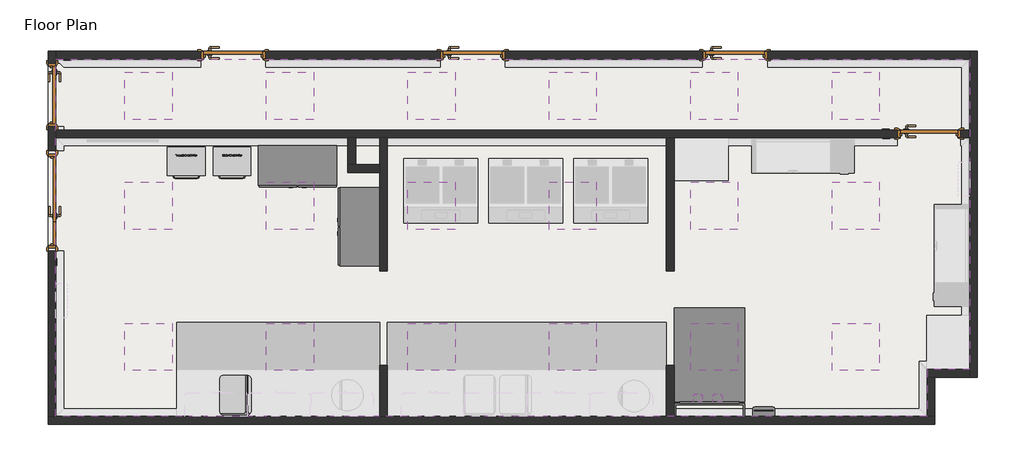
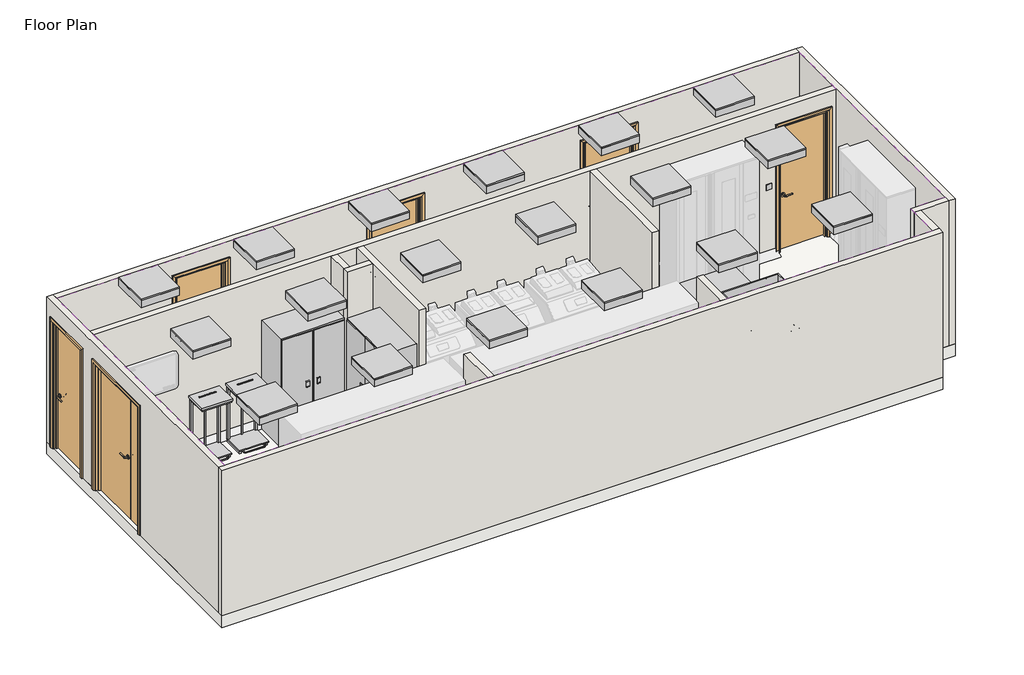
# One storey, part 1 of 2: 18 light fixtures, 13 walls, 8 furniture elements, 7 proxies, 6 doors, 1 covering, 1 flow terminal, 1 slab.
"""IFC4 building model written with IfcOpenShell, lengths in millimetres."""

from ifc_helpers import new_model, si_unit, frame, origin, origin_with_axes, place, context, project, spatial, polyline, outline, extrude, faceted_brep, transform, mapped, element, save
from components import generic_models_42823711, generic_models_1ffc3738, generic_models_cf329d1a, bimhealth_electrical_light_switch_v1_type_1_b5e59f8a, door_810x2110mm_af5921ef, door_830x2110mm_542d9b71, bimhealth_door_and_half_1210x2110mm_sgl_swing_70a7d20a, flow_terminal_30861e1c, furniture_b5986096, furniture_bd22f9ff, furniture_3d3374f5, furniture_166ce8d1, furniture_26d36cfe, furniture_197fe330, furniture_610823a6, lighting_fixtures_troffer_parabolic_square_600x600mm_2_lamps_e1dca80e

model = new_model("IFC4")

# Units and contexts
model_context = context("Model", 3, world=origin())
ifc_project = project(units=[si_unit("LENGTHUNIT", "METRE", prefix="MILLI")], contexts=[model_context])

# Site, building, storey
site = spatial("IfcSite", under=ifc_project)
building = spatial("IfcBuilding", under=site)
storey = spatial("IfcBuildingStorey", under=building, Name="Floor Plan", Elevation=0.0)

# Proxies
placement = place(None, origin())
generic_models_shape = generic_models_42823711(model_context)
element("IfcBuildingElementProxy", 1, Name="BIMHealth-400x600mm_Base_Unit_Lockable-LOD2A-v1 : BIMHealth-400x600mm_Base_Unit_Lockable-LOD2A-v1", ObjectType="BIMHealth-400x600mm_Base_Unit_Lockable-LOD2A-v1 : BIMHealth-400x600mm_Base_Unit_Lockable-LOD2A-v1", at=placement, inside=storey, context=model_context, shape_type="MappedRepresentation", body=[
    mapped(generic_models_shape, transform((-4295.0, 433.0, 0.0), x_axis=(-1.0, 0.0, 0.0), y_axis=(0.0, -1.0, 0.0), z_axis=(0.0, 0.0, 1.0))),
])
generic_models_2_shape = generic_models_1ffc3738(model_context)
element("IfcBuildingElementProxy", 2, Name="BIMHealth-400x600mm_Base_Unit_with_drawer_lockable-LOD2A-v1 : BIMHealth-400x600mm_Base_Unit_with_drawer_lockable-LOD2A-v1", ObjectType="BIMHealth-400x600mm_Base_Unit_with_drawer_lockable-LOD2A-v1 : BIMHealth-400x600mm_Base_Unit_with_drawer_lockable-LOD2A-v1", at=placement, inside=storey, context=model_context, shape_type="MappedRepresentation", body=[
    mapped(generic_models_2_shape, transform((-5495.0, 433.0, 0.0), x_axis=(1.0, 0.0, 0.0), y_axis=(0.0, 1.0, 0.0), z_axis=(0.0, 0.0, 1.0))),
])
generic_models_3_shape = generic_models_cf329d1a(model_context)
element("IfcBuildingElementProxy", 3, Name="BIMHealth-400x600mm_Base_Unit_Lockable-LOD2A-v1 : BIMHealth-400x600mm_Base_Unit_Lockable-LOD2A-v1", ObjectType="BIMHealth-400x600mm_Base_Unit_Lockable-LOD2A-v1 : BIMHealth-400x600mm_Base_Unit_Lockable-LOD2A-v1", at=placement, inside=storey, context=model_context, shape_type="MappedRepresentation", body=[
    mapped(generic_models_3_shape, transform((-5095.0, 433.0, 0.0), x_axis=(1.0, 0.0, 0.0), y_axis=(0.0, 1.0, 0.0), z_axis=(0.0, 0.0, 1.0))),
])
bimhealth_electrical_light_switch_v1_type_1_shape = bimhealth_electrical_light_switch_v1_type_1_b5e59f8a(model_context)
element("IfcBuildingElementProxy", 4, Name="BIMHealth-Electrical-Light_Switch-v1 : Type 1", ObjectType="BIMHealth-Electrical-Light_Switch-v1 : Type 1", at=placement, inside=storey, context=model_context, shape_type="MappedRepresentation", body=[
    mapped(bimhealth_electrical_light_switch_v1_type_1_shape, transform((-6809.0, 5017.0, -60.0), x_axis=(-1.0, 0.0, 0.0), y_axis=(0.0, -1.0, 0.0), z_axis=(0.0, 0.0, 1.0))),
])
element("IfcBuildingElementProxy", 5, Name="BIMHealth-Electrical-Light_Switch-v1 : Type 1", ObjectType="BIMHealth-Electrical-Light_Switch-v1 : Type 1", at=placement, inside=storey, context=model_context, shape_type="MappedRepresentation", body=[
    mapped(bimhealth_electrical_light_switch_v1_type_1_shape, transform((-7174.0, 2556.5, 0.0), x_axis=(0.0, -1.0, 0.0), y_axis=(1.0, 0.0, 0.0), z_axis=(0.0, 0.0, 1.0))),
])
element("IfcBuildingElementProxy", 6, Name="BIMHealth-Electrical-Light_Switch-v1 : Type 1", ObjectType="BIMHealth-Electrical-Light_Switch-v1 : Type 1", at=placement, inside=storey, context=model_context, shape_type="MappedRepresentation", body=[
    mapped(bimhealth_electrical_light_switch_v1_type_1_shape, transform((3270.0, 4017.0, 0.0), x_axis=(1.0, 0.0, 0.0), y_axis=(0.0, 1.0, 0.0), z_axis=(0.0, 0.0, 1.0))),
])
element("IfcBuildingElementProxy", 7, Name="BIMHealth-Electrical-Light_Switch-v1 : Type 1", ObjectType="BIMHealth-Electrical-Light_Switch-v1 : Type 1", at=placement, inside=storey, context=model_context, shape_type="MappedRepresentation", body=[
    mapped(bimhealth_electrical_light_switch_v1_type_1_shape, transform((3614.5, 4017.0, 0.0), x_axis=(-1.0, 0.0, 0.0), y_axis=(0.0, -1.0, 0.0), z_axis=(0.0, 0.0, 1.0))),
])

# Covering
element("IfcCovering", 8, ObjectType="BIMHealth - Generic Ceiling", at=placement, inside=storey, context=model_context, shape_type="SweptSolid", body=[
    extrude(outline(polyline([(4505.0, 4967.0), (4505.0, 1015.0), (3963.0, 1015.0), (3963.0, 415.0), (-7124.0, 415.0), (-7124.0, 4967.0), (4505.0, 4967.0)]), holes=[polyline([(-5645.6316614, 1600.8567242), (-6245.6316614, 1600.8567242), (-6245.6316614, 1000.8567242), (-5645.6316614, 1000.8567242), (-5645.6316614, 1600.8567242)]), polyline([(-3845.0, 1600.8567242), (-4445.0, 1600.8567242), (-4445.0, 1000.8567242), (-3845.0, 1000.8567242), (-3845.0, 1600.8567242)]), polyline([(-2045.0, 1600.8567242), (-2645.0, 1600.8567242), (-2645.0, 1000.8567242), (-2045.0, 1000.8567242), (-2045.0, 1600.8567242)]), polyline([(-245.0, 1600.8567242), (-845.0, 1600.8567242), (-845.0, 1000.8567242), (-245.0, 1000.8567242), (-245.0, 1600.8567242)]), polyline([(1555.0, 1600.8567242), (955.0, 1600.8567242), (955.0, 1000.8567242), (1555.0, 1000.8567242), (1555.0, 1600.8567242)]), polyline([(3355.0, 1600.8567242), (2755.0, 1600.8567242), (2755.0, 1000.8567242), (3355.0, 1000.8567242), (3355.0, 1600.8567242)]), polyline([(-5645.6316614, 3400.0), (-6245.6316614, 3400.0), (-6245.6316614, 2800.0), (-5645.6316614, 2800.0), (-5645.6316614, 3400.0)]), polyline([(-3845.0, 3400.0), (-4445.0, 3400.0), (-4445.0, 2800.0), (-3845.0, 2800.0), (-3845.0, 3400.0)]), polyline([(-2045.0, 3400.0), (-2645.0, 3400.0), (-2645.0, 2800.0), (-2045.0, 2800.0), (-2045.0, 3400.0)]), polyline([(-245.0, 3400.0), (-845.0, 3400.0), (-845.0, 2800.0), (-245.0, 2800.0), (-245.0, 3400.0)]), polyline([(1555.0, 3400.0), (955.0, 3400.0), (955.0, 2800.0), (1555.0, 2800.0), (1555.0, 3400.0)]), polyline([(3355.0, 3400.0), (2755.0, 3400.0), (2755.0, 2800.0), (3355.0, 2800.0), (3355.0, 3400.0)]), polyline([(-5645.6316614, 4800.0), (-6245.6316614, 4800.0), (-6245.6316614, 4200.0), (-5645.6316614, 4200.0), (-5645.6316614, 4800.0)]), polyline([(-3845.0, 4800.0), (-4445.0, 4800.0), (-4445.0, 4200.0), (-3845.0, 4200.0), (-3845.0, 4800.0)]), polyline([(-2045.0, 4800.0), (-2645.0, 4800.0), (-2645.0, 4200.0), (-2045.0, 4200.0), (-2045.0, 4800.0)]), polyline([(-245.0, 4800.0), (-845.0, 4800.0), (-845.0, 4200.0), (-245.0, 4200.0), (-245.0, 4800.0)]), polyline([(1555.0, 4800.0), (955.0, 4800.0), (955.0, 4200.0), (1555.0, 4200.0), (1555.0, 4800.0)]), polyline([(3355.0, 4800.0), (2755.0, 4800.0), (2755.0, 4200.0), (3355.0, 4200.0), (3355.0, 4800.0)])]), frame((0.0, 0.0, 2400.0), z_axis=(0.0, 0.0, 1.0), x_axis=(1.0, 0.0, 0.0)), (0.0, 0.0, 1.0), 52.0),
])

# Doors
door_810x2110mm_shape = door_810x2110mm_af5921ef(model_context)
element("IfcDoor", 9, ObjectType="BIMHealth-Single_Door_841mm_Wide-LOD2A-v1 : 810x2110mm", at=placement, inside=storey, context=model_context, shape_type="MappedRepresentation", body=[
    mapped(door_810x2110mm_shape, transform((3990.0, 4017.0, 0.0), x_axis=(1.0, 0.0, 0.0), y_axis=(0.0, 1.0, 0.0), z_axis=(0.0, 0.0, 1.0))),
])
door_830x2110mm_shape = door_830x2110mm_542d9b71(model_context)
element("IfcDoor", 10, ObjectType="BIMHealth-Single_Door_841mm_Wide-LOD2A-v1 : 830x2110mm", at=placement, inside=storey, context=model_context, shape_type="MappedRepresentation", body=[
    mapped(door_830x2110mm_shape, transform((-4869.0, 5017.0, 0.0), x_axis=(1.0, 0.0, 0.0), y_axis=(0.0, 1.0, 0.0), z_axis=(0.0, 0.0, 1.0))),
])
element("IfcDoor", 11, ObjectType="BIMHealth-Single_Door_841mm_Wide-LOD2A-v1 : 830x2110mm", at=placement, inside=storey, context=model_context, shape_type="MappedRepresentation", body=[
    mapped(door_830x2110mm_shape, transform((1520.0, 5017.0, 0.0), x_axis=(1.0, 0.0, 0.0), y_axis=(0.0, 1.0, 0.0), z_axis=(0.0, 0.0, 1.0))),
])
element("IfcDoor", 12, ObjectType="BIMHealth-Single_Door_841mm_Wide-LOD2A-v1 : 830x2110mm", at=placement, inside=storey, context=model_context, shape_type="MappedRepresentation", body=[
    mapped(door_830x2110mm_shape, transform((-1820.0, 5017.0, 0.0), x_axis=(1.0, 0.0, 0.0), y_axis=(0.0, 1.0, 0.0), z_axis=(0.0, 0.0, 1.0))),
])
bimhealth_door_and_half_1210x2110mm_sgl_swing_shape = bimhealth_door_and_half_1210x2110mm_sgl_swing_70a7d20a(model_context)
element("IfcDoor", 13, ObjectType="BIMHealth-Door_and_half : 1210x2110mm-Sgl_Swing", at=placement, inside=storey, context=model_context, shape_type="MappedRepresentation", body=[
    mapped(bimhealth_door_and_half_1210x2110mm_sgl_swing_shape, transform((-7174.0, 2923.0, 0.0), x_axis=(0.0, 1.0, 0.0), y_axis=(-1.0, 0.0, 0.0), z_axis=(0.0, 0.0, 1.0))),
])
element("IfcDoor", 14, ObjectType="Doors_IntSgl_1 : 810x2110mm", at=placement, inside=storey, context=model_context, shape_type="MappedRepresentation", body=[
    mapped(door_810x2110mm_shape, transform((-7174.0, 4512.0, 0.0), x_axis=(0.0, -1.0, 0.0), y_axis=(1.0, 0.0, 0.0), z_axis=(0.0, 0.0, 1.0))),
])

# Flow terminal
flow_terminal_shape = flow_terminal_30861e1c(model_context)
element("IfcFlowTerminal", 15, ObjectType="BIMHealth-Wash_basin-LOD2A-v1 : BIMHealth-Wash_basin-LOD2A-v1", at=placement, inside=storey, context=model_context, shape_type="MappedRepresentation", body=[
    mapped(flow_terminal_shape, transform((1445.0, 601.0, 600.0), x_axis=(-1.0, 0.0, 0.0), y_axis=(0.0, -1.0, 0.0), z_axis=(0.0, 0.0, 1.0))),
])

# Furniture
furniture_shape = furniture_b5986096(model_context)
element("IfcFurniture", 16, ObjectType="BIMHealth-Foam_Dispenser-LOD2A-v1 : BIMHealth-Foam_Dispenser-LOD2A-v1", at=placement, inside=storey, context=model_context, shape_type="MappedRepresentation", body=[
    mapped(furniture_shape, transform((1105.0, 601.0, 125.0), x_axis=(-1.0, 0.0, 0.0), y_axis=(0.0, -1.0, 0.0), z_axis=(0.0, 0.0, 1.0))),
])
furniture_2_shape = furniture_bd22f9ff(model_context)
element("IfcFurniture", 17, ObjectType="BIMHealth-Cabinet_with_Loackable_Doors-LOD2A-v1 : BIMHealth-Cabinet_with_Loackable_Doors-LOD2A-v1", at=placement, inside=storey, context=model_context, shape_type="MappedRepresentation", body=[
    mapped(furniture_2_shape, transform((-4048.7259741, 3612.0, 0.0), x_axis=(1.0, 0.0, 0.0), y_axis=(0.0, 1.0, 0.0), z_axis=(0.0, 0.0, 1.0))),
])
element("IfcFurniture", 18, ObjectType="BIMHealth-Cabinet_with_Loackable_Doors-LOD2A-v1 : BIMHealth-Cabinet_with_Loackable_Doors-LOD2A-v1", at=placement, inside=storey, context=model_context, shape_type="MappedRepresentation", body=[
    mapped(furniture_2_shape, transform((-3260.0, 2834.1370771, 0.0), x_axis=(0.0, -1.0, 0.0), y_axis=(1.0, 0.0, 0.0), z_axis=(0.0, 0.0, 1.0))),
])
furniture_3_shape = furniture_3d3374f5(model_context)
element("IfcFurniture", 19, ObjectType="BIMHealth-Washstation-LOD2A-v1 : BIMHealth-Washstation-LOD2A-v1", at=placement, inside=storey, context=model_context, shape_type="MappedRepresentation", body=[
    mapped(furniture_3_shape, transform((745.0, 415.0, 0.0), x_axis=(-1.0, 0.0, 0.0), y_axis=(0.0, -1.0, 0.0), z_axis=(0.0, 0.0, 1.0))),
])
furniture_4_shape = furniture_166ce8d1(model_context)
element("IfcFurniture", 20, ObjectType="BIMHealth-Paper_Towel_Dispenser-LOD2A-v1 : BIMHealth-Paper_Towel_Dispenser-LOD2A-v1", at=placement, inside=storey, context=model_context, shape_type="MappedRepresentation", body=[
    mapped(furniture_4_shape, transform((2023.0, 415.0, 0.0), x_axis=(-1.0, 0.0, 0.0), y_axis=(0.0, -1.0, 0.0), z_axis=(0.0, 0.0, 1.0))),
])
furniture_5_shape = furniture_26d36cfe(model_context)
element("IfcFurniture", 21, ObjectType="BIMHealth-Soap_Dispenser-LOD2A-v1 : BIMHealth-Soap_Dispenser-LOD2A-v1", at=placement, inside=storey, context=model_context, shape_type="MappedRepresentation", body=[
    mapped(furniture_5_shape, transform((1355.0, 601.0, 125.0), x_axis=(-1.0, 0.0, 0.0), y_axis=(0.0, -1.0, 0.0), z_axis=(0.0, 0.0, 1.0))),
])
furniture_6_shape = furniture_197fe330(model_context)
element("IfcFurniture", 22, ObjectType="BIMHealth-Sack_Holder_Domestic-LOD2A-v1 : BIMHealth-Sack_Holder_Domestic-LOD2A-v1", at=placement, inside=storey, context=model_context, shape_type="MappedRepresentation", body=[
    mapped(furniture_6_shape, transform((-5685.0, 3827.0, 0.0), x_axis=(1.0, 0.0, 0.0), y_axis=(0.0, 1.0, 0.0), z_axis=(0.0, 0.0, 1.0))),
])
furniture_7_shape = furniture_610823a6(model_context)
element("IfcFurniture", 23, ObjectType="BIMHealth-Sack_Holder_Clinical-LOD2A-v1 : BIMHealth-Sack_Holder_Clinical-LOD2A-v1", at=placement, inside=storey, context=model_context, shape_type="MappedRepresentation", body=[
    mapped(furniture_7_shape, transform((-5105.0, 3827.0, 0.0), x_axis=(1.0, 0.0, 0.0), y_axis=(0.0, 1.0, 0.0), z_axis=(0.0, 0.0, 1.0))),
])

# Light fixtures
lighting_fixtures_troffer_parabolic_square_600x600mm_2_lamps_shape = lighting_fixtures_troffer_parabolic_square_600x600mm_2_lamps_e1dca80e(model_context)
element("IfcLightFixture", 24, ObjectType="Lighting_Fixtures_Troffer_Parabolic_Square : 600x600mm-2_Lamps", at=placement, inside=storey, context=model_context, shape_type="MappedRepresentation", body=[
    mapped(lighting_fixtures_troffer_parabolic_square_600x600mm_2_lamps_shape, transform((-5922.1281598, 1355.5226563, -38.4), x_axis=(1.0, 0.0, 0.0), y_axis=(0.0, 1.0, 0.0), z_axis=(0.0, 0.0, 1.0))),
])
element("IfcLightFixture", 25, ObjectType="Lighting_Fixtures_Troffer_Parabolic_Square : 600x600mm-2_Lamps", at=placement, inside=storey, context=model_context, shape_type="MappedRepresentation", body=[
    mapped(lighting_fixtures_troffer_parabolic_square_600x600mm_2_lamps_shape, transform((-4121.4964984, 1355.5226563, -38.4), x_axis=(1.0, 0.0, 0.0), y_axis=(0.0, 1.0, 0.0), z_axis=(0.0, 0.0, 1.0))),
])
element("IfcLightFixture", 26, ObjectType="Lighting_Fixtures_Troffer_Parabolic_Square : 600x600mm-2_Lamps", at=placement, inside=storey, context=model_context, shape_type="MappedRepresentation", body=[
    mapped(lighting_fixtures_troffer_parabolic_square_600x600mm_2_lamps_shape, transform((-2321.4964984, 1355.5226563, -38.4), x_axis=(1.0, 0.0, 0.0), y_axis=(0.0, 1.0, 0.0), z_axis=(0.0, 0.0, 1.0))),
])
element("IfcLightFixture", 27, ObjectType="Lighting_Fixtures_Troffer_Parabolic_Square : 600x600mm-2_Lamps", at=placement, inside=storey, context=model_context, shape_type="MappedRepresentation", body=[
    mapped(lighting_fixtures_troffer_parabolic_square_600x600mm_2_lamps_shape, transform((-521.4964984, 1355.5226563, -38.4), x_axis=(1.0, 0.0, 0.0), y_axis=(0.0, 1.0, 0.0), z_axis=(0.0, 0.0, 1.0))),
])
element("IfcLightFixture", 28, ObjectType="Lighting_Fixtures_Troffer_Parabolic_Square : 600x600mm-2_Lamps", at=placement, inside=storey, context=model_context, shape_type="MappedRepresentation", body=[
    mapped(lighting_fixtures_troffer_parabolic_square_600x600mm_2_lamps_shape, transform((1278.5035016, 1355.5226563, -38.4), x_axis=(1.0, 0.0, 0.0), y_axis=(0.0, 1.0, 0.0), z_axis=(0.0, 0.0, 1.0))),
])
element("IfcLightFixture", 29, ObjectType="Lighting_Fixtures_Troffer_Parabolic_Square : 600x600mm-2_Lamps", at=placement, inside=storey, context=model_context, shape_type="MappedRepresentation", body=[
    mapped(lighting_fixtures_troffer_parabolic_square_600x600mm_2_lamps_shape, transform((3078.5035016, 1355.5226563, -38.4), x_axis=(1.0, 0.0, 0.0), y_axis=(0.0, 1.0, 0.0), z_axis=(0.0, 0.0, 1.0))),
])
element("IfcLightFixture", 30, ObjectType="Lighting_Fixtures_Troffer_Parabolic_Square : 600x600mm-2_Lamps", at=placement, inside=storey, context=model_context, shape_type="MappedRepresentation", body=[
    mapped(lighting_fixtures_troffer_parabolic_square_600x600mm_2_lamps_shape, transform((-5922.1281598, 3154.6659321, -38.4), x_axis=(1.0, 0.0, 0.0), y_axis=(0.0, 1.0, 0.0), z_axis=(0.0, 0.0, 1.0))),
])
element("IfcLightFixture", 31, ObjectType="Lighting_Fixtures_Troffer_Parabolic_Square : 600x600mm-2_Lamps", at=placement, inside=storey, context=model_context, shape_type="MappedRepresentation", body=[
    mapped(lighting_fixtures_troffer_parabolic_square_600x600mm_2_lamps_shape, transform((-4121.4964984, 3154.6659321, -38.4), x_axis=(1.0, 0.0, 0.0), y_axis=(0.0, 1.0, 0.0), z_axis=(0.0, 0.0, 1.0))),
])
element("IfcLightFixture", 32, ObjectType="Lighting_Fixtures_Troffer_Parabolic_Square : 600x600mm-2_Lamps", at=placement, inside=storey, context=model_context, shape_type="MappedRepresentation", body=[
    mapped(lighting_fixtures_troffer_parabolic_square_600x600mm_2_lamps_shape, transform((-2321.4964984, 3154.6659321, -38.4), x_axis=(1.0, 0.0, 0.0), y_axis=(0.0, 1.0, 0.0), z_axis=(0.0, 0.0, 1.0))),
])
element("IfcLightFixture", 33, ObjectType="Lighting_Fixtures_Troffer_Parabolic_Square : 600x600mm-2_Lamps", at=placement, inside=storey, context=model_context, shape_type="MappedRepresentation", body=[
    mapped(lighting_fixtures_troffer_parabolic_square_600x600mm_2_lamps_shape, transform((-521.4964984, 3154.6659321, -38.4), x_axis=(1.0, 0.0, 0.0), y_axis=(0.0, 1.0, 0.0), z_axis=(0.0, 0.0, 1.0))),
])
element("IfcLightFixture", 34, ObjectType="Lighting_Fixtures_Troffer_Parabolic_Square : 600x600mm-2_Lamps", at=placement, inside=storey, context=model_context, shape_type="MappedRepresentation", body=[
    mapped(lighting_fixtures_troffer_parabolic_square_600x600mm_2_lamps_shape, transform((1278.5035016, 3154.6659321, -38.4), x_axis=(1.0, 0.0, 0.0), y_axis=(0.0, 1.0, 0.0), z_axis=(0.0, 0.0, 1.0))),
])
element("IfcLightFixture", 35, ObjectType="Lighting_Fixtures_Troffer_Parabolic_Square : 600x600mm-2_Lamps", at=placement, inside=storey, context=model_context, shape_type="MappedRepresentation", body=[
    mapped(lighting_fixtures_troffer_parabolic_square_600x600mm_2_lamps_shape, transform((3078.5035016, 3154.6659321, -38.4), x_axis=(1.0, 0.0, 0.0), y_axis=(0.0, 1.0, 0.0), z_axis=(0.0, 0.0, 1.0))),
])
element("IfcLightFixture", 36, ObjectType="Lighting_Fixtures_Troffer_Parabolic_Square : 600x600mm-2_Lamps", at=placement, inside=storey, context=model_context, shape_type="MappedRepresentation", body=[
    mapped(lighting_fixtures_troffer_parabolic_square_600x600mm_2_lamps_shape, transform((-5922.1281598, 4554.6659321, -38.4), x_axis=(1.0, 0.0, 0.0), y_axis=(0.0, 1.0, 0.0), z_axis=(0.0, 0.0, 1.0))),
])
element("IfcLightFixture", 37, ObjectType="Lighting_Fixtures_Troffer_Parabolic_Square : 600x600mm-2_Lamps", at=placement, inside=storey, context=model_context, shape_type="MappedRepresentation", body=[
    mapped(lighting_fixtures_troffer_parabolic_square_600x600mm_2_lamps_shape, transform((-4121.4964984, 4554.6659321, -38.4), x_axis=(1.0, 0.0, 0.0), y_axis=(0.0, 1.0, 0.0), z_axis=(0.0, 0.0, 1.0))),
])
element("IfcLightFixture", 38, ObjectType="Lighting_Fixtures_Troffer_Parabolic_Square : 600x600mm-2_Lamps", at=placement, inside=storey, context=model_context, shape_type="MappedRepresentation", body=[
    mapped(lighting_fixtures_troffer_parabolic_square_600x600mm_2_lamps_shape, transform((-2321.4964984, 4554.6659321, -38.4), x_axis=(1.0, 0.0, 0.0), y_axis=(0.0, 1.0, 0.0), z_axis=(0.0, 0.0, 1.0))),
])
element("IfcLightFixture", 39, ObjectType="Lighting_Fixtures_Troffer_Parabolic_Square : 600x600mm-2_Lamps", at=placement, inside=storey, context=model_context, shape_type="MappedRepresentation", body=[
    mapped(lighting_fixtures_troffer_parabolic_square_600x600mm_2_lamps_shape, transform((-521.4964984, 4554.6659321, -38.4), x_axis=(1.0, 0.0, 0.0), y_axis=(0.0, 1.0, 0.0), z_axis=(0.0, 0.0, 1.0))),
])
element("IfcLightFixture", 40, ObjectType="Lighting_Fixtures_Troffer_Parabolic_Square : 600x600mm-2_Lamps", at=placement, inside=storey, context=model_context, shape_type="MappedRepresentation", body=[
    mapped(lighting_fixtures_troffer_parabolic_square_600x600mm_2_lamps_shape, transform((1278.5035016, 4554.6659321, -38.4), x_axis=(1.0, 0.0, 0.0), y_axis=(0.0, 1.0, 0.0), z_axis=(0.0, 0.0, 1.0))),
])
element("IfcLightFixture", 41, ObjectType="Lighting_Fixtures_Troffer_Parabolic_Square : 600x600mm-2_Lamps", at=placement, inside=storey, context=model_context, shape_type="MappedRepresentation", body=[
    mapped(lighting_fixtures_troffer_parabolic_square_600x600mm_2_lamps_shape, transform((3078.5035016, 4554.6659321, -38.4), x_axis=(1.0, 0.0, 0.0), y_axis=(0.0, 1.0, 0.0), z_axis=(0.0, 0.0, 1.0))),
])

# Slab
element("IfcSlab", 42, ObjectType="BIMHealth - Generic Floor", at=placement, inside=storey, context=model_context, shape_type="SweptSolid", body=[
    extrude(outline(polyline([(4605.0, 5067.0), (4605.0, 915.0), (4063.0, 915.0), (4063.0, 315.0), (-7224.0, 315.0), (-7224.0, 5067.0), (4605.0, 5067.0)])), frame((0.0, 0.0, -200.0), z_axis=(0.0, 0.0, 1.0), x_axis=(1.0, 0.0, 0.0)), (0.0, 0.0, 1.0), 200.0),
])

# Walls
element("IfcWall", 43, ObjectType="BIMHealth - Generic Wall", at=placement, inside=storey, context=model_context, shape_type="Brep", body=[
    faceted_brep([(4505.0, 5067.0, 0.0), (4505.0, 4967.0, 0.0), (4505.0, 1015.0, 0.0), (4505.0, 915.0, 0.0), (4505.0, 915.0, 2400.0), (4505.0, 1015.0, 2400.0), (4505.0, 4967.0, 2400.0), (4505.0, 5067.0, 2400.0), (4605.0, 5067.0, 0.0), (4605.0, 5067.0, 2400.0), (4605.0, 915.0, 2400.0), (4605.0, 915.0, 0.0)], [[[0, 1, 2, 3, 4, 5, 6, 7]], [[8, 9, 10, 11]], [[3, 2, 1, 0, 8, 11]], [[7, 6, 5, 4, 10, 9]], [[0, 7, 9, 8]], [[4, 3, 11, 10]]]),
])
element("IfcWall", 44, ObjectType="BIMHealth - Generic Wall", at=placement, inside=storey, context=model_context, shape_type="Brep", body=[
    faceted_brep([(4063.0, 415.0, 0.0), (3963.0, 415.0, 0.0), (745.0, 415.0, 0.0), (645.0, 415.0, 0.0), (-2905.0, 415.0, 0.0), (-3005.0, 415.0, 0.0), (-7124.0, 415.0, 0.0), (-7224.0, 415.0, 0.0), (-7224.0, 415.0, 2400.0), (-7124.0, 415.0, 2400.0), (-3005.0, 415.0, 2400.0), (-2905.0, 415.0, 2400.0), (645.0, 415.0, 2400.0), (745.0, 415.0, 2400.0), (3963.0, 415.0, 2400.0), (4063.0, 415.0, 2400.0), (4063.0, 315.0, 0.0), (4063.0, 315.0, 2400.0), (-7224.0, 315.0, 2400.0), (-7224.0, 315.0, 0.0)], [[[0, 1, 2, 3, 4, 5, 6, 7, 8, 9, 10, 11, 12, 13, 14, 15]], [[16, 17, 18, 19]], [[7, 6, 5, 4, 3, 2, 1, 0, 16, 19]], [[15, 14, 13, 12, 11, 10, 9, 8, 18, 17]], [[8, 7, 19, 18]], [[0, 15, 17, 16]]]),
])
element("IfcWall", 45, ObjectType="BIMHealth - Generic Wall", at=placement, inside=storey, context=model_context, shape_type="Brep", body=[
    faceted_brep([(-7124.0, 5067.0, 2400.0), (-7124.0, 4967.0, 2400.0), (-7124.0, 4067.0, 2400.0), (-7124.0, 3967.0, 2400.0), (-7124.0, 415.0, 2400.0), (-7124.0, 415.0, 100.0), (-7124.0, 415.0, 0.0), (-7124.0, 2522.0, 0.0), (-7124.0, 2522.0, 100.0), (-7124.0, 2522.0, 2110.0), (-7124.0, 3802.0, 2110.0), (-7124.0, 3802.0, 100.0), (-7124.0, 3802.0, 0.0), (-7124.0, 3967.0, 0.0), (-7124.0, 4067.0, 0.0), (-7124.0, 4107.0, 0.0), (-7124.0, 4107.0, 100.0), (-7124.0, 4107.0, 2110.0), (-7124.0, 4917.0, 2110.0), (-7124.0, 4917.0, 100.0), (-7124.0, 4917.0, 0.0), (-7124.0, 4967.0, 0.0), (-7124.0, 5067.0, 0.0), (-7224.0, 415.0, 2400.0), (-7224.0, 5067.0, 2400.0), (-7224.0, 5067.0, 0.0), (-7224.0, 4917.0, 0.0), (-7224.0, 4917.0, 2110.0), (-7224.0, 4107.0, 2110.0), (-7224.0, 4107.0, 0.0), (-7224.0, 3802.0, 0.0), (-7224.0, 3802.0, 2110.0), (-7224.0, 2522.0, 2110.0), (-7224.0, 2522.0, 0.0), (-7224.0, 415.0, 0.0)], [[[0, 1, 2, 3, 4, 5, 6, 7, 8, 9, 10, 11, 12, 13, 14, 15, 16, 17, 18, 19, 20, 21, 22]], [[23, 24, 25, 26, 27, 28, 29, 30, 31, 32, 33, 34]], [[6, 34, 33, 7]], [[25, 22, 21, 20, 26]], [[29, 15, 14, 13, 12, 30]], [[4, 3, 2, 1, 0, 24, 23]], [[6, 5, 4, 23, 34]], [[0, 22, 25, 24]], [[28, 17, 16, 15, 29]], [[17, 28, 27, 18]], [[18, 27, 26, 20, 19]], [[10, 31, 30, 12, 11]], [[31, 10, 9, 32]], [[32, 9, 8, 7, 33]]]),
])
element("IfcWall", 46, ObjectType="BIMHealth - Generic Wall", at=placement, inside=storey, context=model_context, shape_type="Brep", body=[
    faceted_brep([(4505.0, 4967.0, 2400.0), (-7124.0, 4967.0, 2400.0), (-7124.0, 4967.0, 0.0), (-5284.0, 4967.0, 0.0), (-5284.0, 4967.0, 100.0), (-5284.0, 4967.0, 2110.0), (-4454.0, 4967.0, 2110.0), (-4454.0, 4967.0, 100.0), (-4454.0, 4967.0, 0.0), (-2235.0, 4967.0, 0.0), (-2235.0, 4967.0, 100.0), (-2235.0, 4967.0, 2110.0), (-1405.0, 4967.0, 2110.0), (-1405.0, 4967.0, 100.0), (-1405.0, 4967.0, 0.0), (1105.0, 4967.0, 0.0), (1105.0, 4967.0, 100.0), (1105.0, 4967.0, 2110.0), (1935.0, 4967.0, 2110.0), (1935.0, 4967.0, 100.0), (1935.0, 4967.0, 0.0), (4505.0, 4967.0, 0.0), (-7124.0, 5067.0, 2400.0), (4505.0, 5067.0, 2400.0), (4505.0, 5067.0, 0.0), (1935.0, 5067.0, 0.0), (1935.0, 5067.0, 2110.0), (1105.0, 5067.0, 2110.0), (1105.0, 5067.0, 0.0), (-1405.0, 5067.0, 0.0), (-1405.0, 5067.0, 2110.0), (-2235.0, 5067.0, 2110.0), (-2235.0, 5067.0, 0.0), (-4454.0, 5067.0, 0.0), (-4454.0, 5067.0, 2110.0), (-5284.0, 5067.0, 2110.0), (-5284.0, 5067.0, 0.0), (-7124.0, 5067.0, 0.0)], [[[0, 1, 2, 3, 4, 5, 6, 7, 8, 9, 10, 11, 12, 13, 14, 15, 16, 17, 18, 19, 20, 21]], [[22, 23, 24, 25, 26, 27, 28, 29, 30, 31, 32, 33, 34, 35, 36, 37]], [[2, 37, 36, 3]], [[24, 21, 20, 25]], [[8, 33, 32, 9]], [[28, 15, 14, 29]], [[1, 0, 23, 22]], [[2, 1, 22, 37]], [[0, 21, 24, 23]], [[6, 34, 33, 8, 7]], [[34, 6, 5, 35]], [[35, 5, 4, 3, 36]], [[20, 19, 18, 26, 25]], [[18, 17, 27, 26]], [[17, 16, 15, 28, 27]], [[12, 30, 29, 14, 13]], [[30, 12, 11, 31]], [[31, 11, 10, 9, 32]]]),
])
element("IfcWall", 47, ObjectType="BIMHealth - Generic Wall", at=placement, inside=storey, context=model_context, shape_type="Brep", body=[
    faceted_brep([(4495.0, 3967.0, 0.0), (4495.0, 3967.0, 100.0), (4495.0, 3967.0, 2400.0), (745.0, 3967.0, 2400.0), (645.0, 3967.0, 2400.0), (-2905.0, 3967.0, 2400.0), (-3005.0, 3967.0, 2400.0), (-3307.0, 3967.0, 2400.0), (-3407.0, 3967.0, 2400.0), (-7124.0, 3967.0, 2400.0), (-7124.0, 3967.0, 100.0), (-7124.0, 3967.0, 0.0), (-3407.0, 3967.0, 0.0), (-3307.0, 3967.0, 0.0), (-3005.0, 3967.0, 0.0), (-2905.0, 3967.0, 0.0), (645.0, 3967.0, 0.0), (745.0, 3967.0, 0.0), (3585.0, 3967.0, 0.0), (3585.0, 3967.0, 100.0), (3585.0, 3967.0, 2110.0), (4395.0, 3967.0, 2110.0), (4395.0, 3967.0, 100.0), (4395.0, 3967.0, 0.0), (4495.0, 4067.0, 2400.0), (4495.0, 4067.0, 0.0), (4395.0, 4067.0, 0.0), (4395.0, 4067.0, 2110.0), (3585.0, 4067.0, 2110.0), (3585.0, 4067.0, 0.0), (-7124.0, 4067.0, 0.0), (-7124.0, 4067.0, 2400.0)], [[[0, 1, 2, 3, 4, 5, 6, 7, 8, 9, 10, 11, 12, 13, 14, 15, 16, 17, 18, 19, 20, 21, 22, 23]], [[24, 25, 26, 27, 28, 29, 30, 31]], [[25, 0, 23, 26]], [[11, 30, 29, 18, 17, 16, 15, 14, 13, 12]], [[2, 1, 0, 25, 24]], [[9, 8, 7, 6, 5, 4, 3, 2, 24, 31]], [[11, 10, 9, 31, 30]], [[21, 27, 26, 23, 22]], [[27, 21, 20, 28]], [[28, 20, 19, 18, 29]]]),
])
element("IfcWall", 48, ObjectType="BIMHealth - Generic Wall", at=placement, inside=storey, context=model_context, shape_type="Brep", body=[
    faceted_brep([(4505.0, 1015.0, 0.0), (3963.0, 1015.0, 0.0), (3963.0, 1015.0, 100.0), (3963.0, 1015.0, 2400.0), (4505.0, 1015.0, 2400.0), (4505.0, 1015.0, 100.0), (3963.0, 915.0, 0.0), (4063.0, 915.0, 0.0), (4505.0, 915.0, 0.0), (4505.0, 915.0, 2400.0), (4063.0, 915.0, 2400.0), (3963.0, 915.0, 2400.0), (3963.0, 915.0, 100.0)], [[[0, 1, 2, 3, 4, 5]], [[6, 7, 8, 9, 10, 11, 12]], [[1, 0, 8, 7, 6]], [[4, 3, 11, 10, 9]], [[4, 9, 8, 0, 5]], [[1, 6, 12, 11, 3, 2]]]),
])
element("IfcWall", 49, ObjectType="BIMHealth - Generic Wall", at=placement, inside=storey, context=model_context, shape_type="Brep", body=[
    faceted_brep([(3963.0, 915.0, 0.0), (3963.0, 415.0, 0.0), (3963.0, 415.0, 100.0), (3963.0, 415.0, 2400.0), (3963.0, 915.0, 2400.0), (3963.0, 915.0, 100.0), (4063.0, 415.0, 0.0), (4063.0, 915.0, 0.0), (4063.0, 915.0, 2400.0), (4063.0, 415.0, 2400.0)], [[[0, 1, 2, 3, 4, 5]], [[6, 7, 8, 9]], [[1, 0, 7, 6]], [[4, 3, 9, 8]], [[1, 6, 9, 3, 2]], [[4, 8, 7, 0, 5]]]),
])
element("IfcWall", 50, ObjectType="BIMHealth - Generic Wall - No Skirting", at=placement, inside=storey, context=model_context, shape_type="SweptSolid", body=[
    extrude(outline(polyline([(-2905.0, 1065.0), (-2905.0, 415.0), (-3005.0, 415.0), (-3005.0, 1065.0), (-2905.0, 1065.0)])), origin_with_axes(), (0.0, 0.0, 1.0), 2400.0),
])
element("IfcWall", 51, ObjectType="BIMHealth - Generic Wall - No Skirting", at=placement, inside=storey, context=model_context, shape_type="SweptSolid", body=[
    extrude(outline(polyline([(745.0, 1065.0), (745.0, 415.0), (645.0, 415.0), (645.0, 1065.0), (745.0, 1065.0)])), origin_with_axes(), (0.0, 0.0, 1.0), 2400.0),
])
element("IfcWall", 52, ObjectType="BIMHealth - Generic Wall - No Skirting", at=placement, inside=storey, context=model_context, shape_type="Brep", body=[
    faceted_brep([(-3005.0, 3967.0, 0.0), (-3005.0, 3626.0, 0.0), (-3005.0, 3526.0, 0.0), (-3005.0, 2267.0, 0.0), (-3005.0, 2267.0, 2400.0), (-3005.0, 3526.0, 2400.0), (-3005.0, 3626.0, 2400.0), (-3005.0, 3967.0, 2400.0), (-2905.0, 3967.0, 0.0), (-2905.0, 3967.0, 2400.0), (-2905.0, 2267.0, 2400.0), (-2905.0, 2267.0, 0.0)], [[[0, 1, 2, 3, 4, 5, 6, 7]], [[8, 9, 10, 11]], [[3, 2, 1, 0, 8, 11]], [[4, 3, 11, 10]], [[7, 6, 5, 4, 10, 9]], [[0, 7, 9, 8]]]),
])
element("IfcWall", 53, ObjectType="BIMHealth - Generic Wall - No Skirting", at=placement, inside=storey, context=model_context, shape_type="SweptSolid", body=[
    extrude(outline(polyline([(645.0, 2267.0), (645.0, 3967.0), (745.0, 3967.0), (745.0, 2267.0), (645.0, 2267.0)])), origin_with_axes(), (0.0, 0.0, 1.0), 2400.0),
])
element("IfcWall", 54, ObjectType="BIMHealth - Generic Wall - No Skirting", at=placement, inside=storey, context=model_context, shape_type="Brep", body=[
    faceted_brep([(-3005.0, 3626.0, 0.0), (-3307.0, 3626.0, 0.0), (-3407.0, 3626.0, 0.0), (-3407.0, 3626.0, 2400.0), (-3307.0, 3626.0, 2400.0), (-3005.0, 3626.0, 2400.0), (-3005.0, 3526.0, 0.0), (-3005.0, 3526.0, 2400.0), (-3407.0, 3526.0, 2400.0), (-3407.0, 3526.0, 0.0)], [[[0, 1, 2, 3, 4, 5]], [[6, 7, 8, 9]], [[2, 1, 0, 6, 9]], [[5, 4, 3, 8, 7]], [[0, 5, 7, 6]], [[3, 2, 9, 8]]]),
])
element("IfcWall", 55, ObjectType="BIMHealth - Generic Wall - No Skirting", at=placement, inside=storey, context=model_context, shape_type="SweptSolid", body=[
    extrude(outline(polyline([(-3307.0, 3967.0), (-3307.0, 3626.0), (-3407.0, 3626.0), (-3407.0, 3967.0), (-3307.0, 3967.0)])), origin_with_axes(), (0.0, 0.0, 1.0), 2400.0),
])

save(model, "model.ifc")
